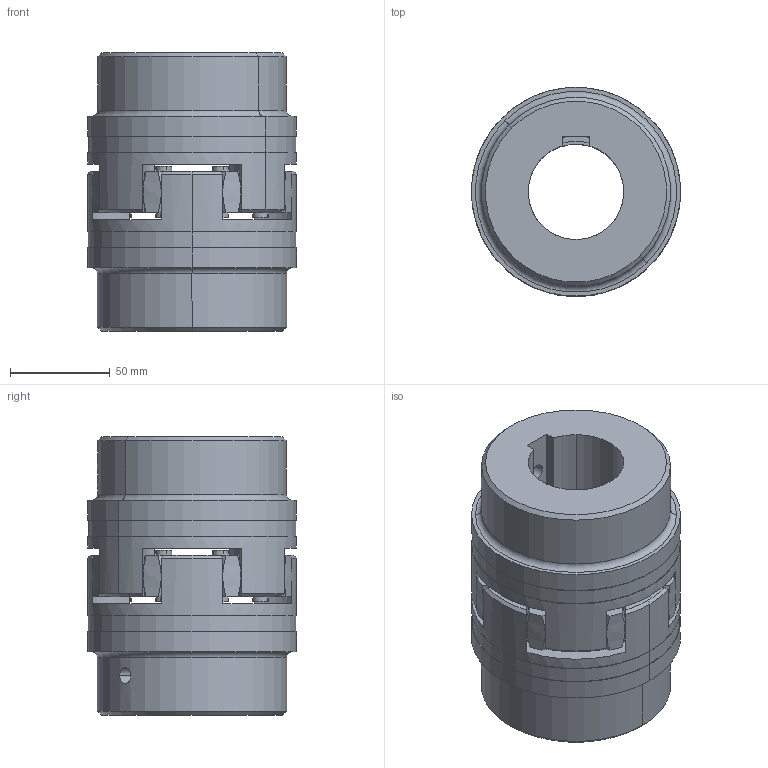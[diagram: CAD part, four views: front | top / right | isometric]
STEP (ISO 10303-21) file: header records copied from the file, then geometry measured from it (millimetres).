
FILE_DESCRIPTION (( 'STEP AP214' ), '1' );
FILE_NAME ('Po³¹czenie Rotex 48.STEP', '2026-05-26T08:19:03', ( '' ), ( '' ), 'SwSTEP 2.0', 'SolidWorks 2022', '' );
FILE_SCHEMA (( 'AUTOMOTIVE_DESIGN' ));
Length unit declared in the file: millimetre
Products named in the file (4): Rotex 48.stp; Po³¹czenie Rotex 48; £¹cznik Rotex 48.stp
Assembly tree (3 placements, depth 2):
  Po³¹czenie Rotex 48
    Rotex 48.stp
    Rotex 48.stp
    £¹cznik Rotex 48.stp
Bounding box: 105 x 105 x 140 mm (x, y, z)
Volume: 797285.1 mm3; surface area: 117772.2 mm2
Topology: 3 solids, 3 shells, 154 faces, 392 edges, 258 vertices
Faces by surface type: cylinder 70, plane 34, bspline 32, cone 14, torus 4
Entity records: 7180 total; most frequent: CARTESIAN_POINT 3426, ORIENTED_EDGE 784, DIRECTION 722, EDGE_CURVE 392, AXIS2_PLACEMENT_3D 318, VERTEX_POINT 258, CIRCLE 190, EDGE_LOOP 178
